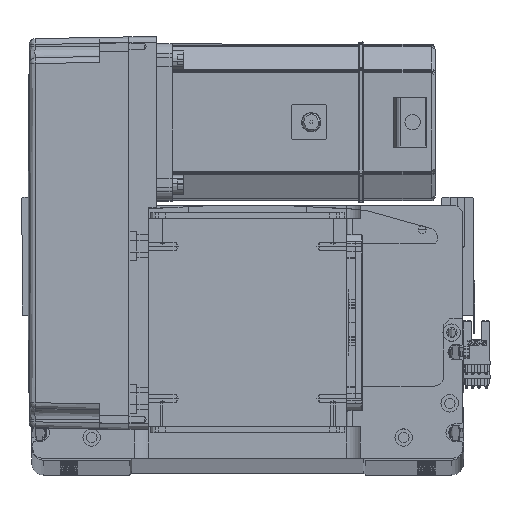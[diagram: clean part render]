
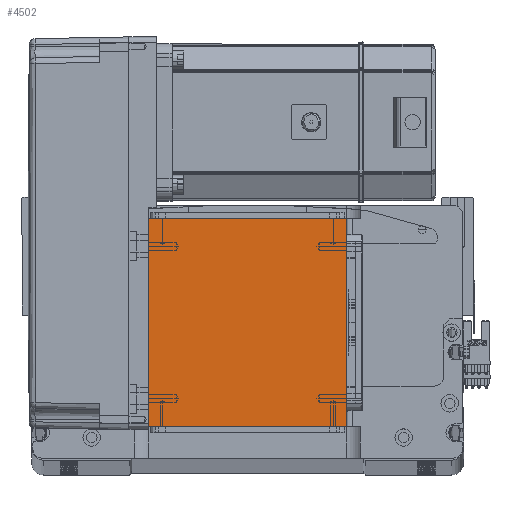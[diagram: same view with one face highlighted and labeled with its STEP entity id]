
A CAD part, top view. The second image highlights one B-rep face of the part: STEP entity #4502.
In plain terms, the highlighted planar face has unit normal (0, 0, 1).
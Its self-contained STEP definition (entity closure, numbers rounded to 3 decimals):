
#68 = DIRECTION ( 'NONE',  ( 0., 0., 1. ) ) ;
#289 = CARTESIAN_POINT ( 'NONE',  ( -50.5, 122., 115. ) ) ;
#2981 = EDGE_CURVE ( 'NONE', #9190, #11292, #58819, .T. ) ;
#3399 = DIRECTION ( 'NONE',  ( 0., 1., 0. ) ) ;
#4502 = ADVANCED_FACE ( 'NONE', ( #11451 ), #29676, .T. ) ;
#6528 = AXIS2_PLACEMENT_3D ( 'NONE', #9968, #68, #49253 ) ;
#9190 = VERTEX_POINT ( 'NONE', #14523 ) ;
#9513 = ORIENTED_EDGE ( 'NONE', *, *, #57472, .T. ) ;
#9968 = CARTESIAN_POINT ( 'NONE',  ( 0., 0., 115. ) ) ;
#11292 = VERTEX_POINT ( 'NONE', #11946 ) ;
#11451 = FACE_OUTER_BOUND ( 'NONE', #28239, .T. ) ;
#11946 = CARTESIAN_POINT ( 'NONE',  ( 50.5, 122., 115. ) ) ;
#12315 = EDGE_CURVE ( 'NONE', #46553, #22427, #40230, .T. ) ;
#14523 = CARTESIAN_POINT ( 'NONE',  ( 50.5, 16., 115. ) ) ;
#14910 = ORIENTED_EDGE ( 'NONE', *, *, #33618, .T. ) ;
#16894 = VECTOR ( 'NONE', #61369, 1000. ) ;
#22427 = VERTEX_POINT ( 'NONE', #58147 ) ;
#25769 = CARTESIAN_POINT ( 'NONE',  ( -50.5, 122., 115. ) ) ;
#27370 = VECTOR ( 'NONE', #54880, 1000. ) ;
#27567 = CARTESIAN_POINT ( 'NONE',  ( -50.5, 122., 115. ) ) ;
#28239 = EDGE_LOOP ( 'NONE', ( #41950, #9513, #32110, #14910 ) ) ;
#29676 = PLANE ( 'NONE',  #6528 ) ;
#31953 = CARTESIAN_POINT ( 'NONE',  ( 50.5, 122., 115. ) ) ;
#32110 = ORIENTED_EDGE ( 'NONE', *, *, #2981, .T. ) ;
#33618 = EDGE_CURVE ( 'NONE', #11292, #46553, #42677, .T. ) ;
#37555 = LINE ( 'NONE', #45288, #42855 ) ;
#40230 = LINE ( 'NONE', #25769, #27370 ) ;
#41217 = VECTOR ( 'NONE', #3399, 1000. ) ;
#41950 = ORIENTED_EDGE ( 'NONE', *, *, #12315, .T. ) ;
#42677 = LINE ( 'NONE', #27567, #16894 ) ;
#42855 = VECTOR ( 'NONE', #45056, 1000. ) ;
#45056 = DIRECTION ( 'NONE',  ( 1., 0., 0. ) ) ;
#45288 = CARTESIAN_POINT ( 'NONE',  ( -50.5, 16., 115. ) ) ;
#46553 = VERTEX_POINT ( 'NONE', #289 ) ;
#49253 = DIRECTION ( 'NONE',  ( 1., 0., 0. ) ) ;
#54880 = DIRECTION ( 'NONE',  ( 0., -1., 0. ) ) ;
#57472 = EDGE_CURVE ( 'NONE', #22427, #9190, #37555, .T. ) ;
#58147 = CARTESIAN_POINT ( 'NONE',  ( -50.5, 16., 115. ) ) ;
#58819 = LINE ( 'NONE', #31953, #41217 ) ;
#61369 = DIRECTION ( 'NONE',  ( -1., 0., 0. ) ) ;
